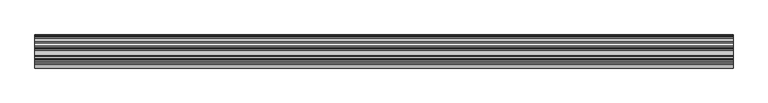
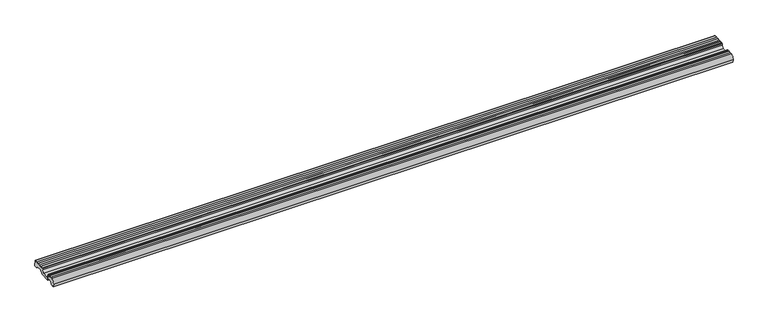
"""IFC4 building model written with IfcOpenShell, lengths in millimetres: proxy geometry, Muestra 2.5m 007 Tecno : Muestra 2.5m 007 Tecno."""

from ifc_helpers import new_model, si_unit, point, frame, frame_2d, origin, place, context, project, spatial, polyline, circle_curve, trimmed, segment, composite_curve, outline, extrude, source, transform, mapped, element, save


def generic_models_bae6f31c(model_context):
    return source(origin(), model_context, "Body", "SweptSolid", [
        extrude(outline(composite_curve([segment(polyline([(-4334.6762857, -31.127556), (-4337.9820965, -6.8253163)]), True, "CONTINUOUS"), segment(trimmed(circle_curve(frame_2d((-4264.898601, 25.9212806)), 80.084561), [point((-4337.9820965, -6.8253163))], [point((-4330.9181229, -19.4103822))], True, "CARTESIAN"), True, "CONTINUOUS"), segment(trimmed(circle_curve(frame_2d((-4328.2766251, -17.9882396)), 3.0), [point((-4330.9181229, -19.4103822))], [point((-4328.033244, -20.9783509))], True, "CARTESIAN"), True, "CONTINUOUS"), segment(polyline([(-4328.033244, -20.9783509), (-4309.9907954, -19.5097795)]), True, "CONTINUOUS"), segment(trimmed(circle_curve(frame_2d((-4314.8003284, -8.2178769)), 12.2734948), [point((-4309.9907954, -19.5097795))], [point((-4302.5559875, -9.063328))], True, "CARTESIAN"), True, "CONTINUOUS"), segment(polyline([(-4302.5559875, -9.063328), (-4302.2003548, -3.9128379), (-4298.476235, -3.6097119)]), True, "CONTINUOUS"), segment(trimmed(circle_curve(frame_2d((-4295.0364486, -0.577194)), 4.5856619), [point((-4298.476235, -3.6097119))], [point((-4290.831144, -2.4057749))], True, "CARTESIAN"), True, "CONTINUOUS"), segment(trimmed(circle_curve(frame_2d((-4286.9802426, 0.0839748)), 4.5856619), [point((-4290.831144, -2.4057749))], [point((-4282.7749379, -1.744606))], True, "CARTESIAN"), True, "CONTINUOUS"), segment(trimmed(circle_curve(frame_2d((-4278.9240366, 0.7451437)), 4.5856619), [point((-4282.7749379, -1.744606))], [point((-4274.7291225, -1.1071497))], True, "CARTESIAN"), True, "CONTINUOUS"), segment(trimmed(circle_curve(frame_2d((-4270.865021, 1.8504161)), 4.8660534), [point((-4274.7291225, -1.1071497))], [point((-4266.5841226, -0.463106))], True, "CARTESIAN"), True, "CONTINUOUS"), segment(trimmed(circle_curve(frame_2d((-4262.750903, 2.4932705)), 4.8408403), [point((-4266.5841226, -0.463106))], [point((-4258.792246, -0.2929041))], True, "CARTESIAN"), True, "CONTINUOUS"), segment(polyline([(-4258.792246, -0.2929041), (-4256.5091729, -0.1069928), (-4256.3244566, -2.3763916), (-4254.3774214, -2.2179124), (-4252.568293, -24.4443475), (-4263.5160254, -25.3354418)]), True, "CONTINUOUS"), segment(trimmed(circle_curve(frame_2d((-4280.69581, -39.9225274)), 22.5372595), [point((-4263.5160254, -25.3354418))], [point((-4300.0084666, -28.3057568))], True, "CARTESIAN"), True, "CONTINUOUS"), segment(polyline([(-4300.0084666, -28.3057568), (-4334.6762857, -31.127556)]), True, "CONTINUOUS")], self_intersect=False)), frame((153572.9704439, 0.0, 0.0), z_axis=(1.0, 0.0, 0.0), x_axis=(0.0, 1.0, 0.0)), (0.0, 0.0, 1.0), 2500.0),
        extrude(outline(composite_curve([segment(polyline([(-4358.3227435, -8.424199), (-4354.1611545, -8.1203809)]), True, "CONTINUOUS"), segment(trimmed(circle_curve(frame_2d((-4350.7967633, -4.5349649)), 4.9167404), [point((-4354.1611545, -8.1203809))], [point((-4346.3729002, -6.6806048))], True, "CARTESIAN"), True, "CONTINUOUS"), segment(trimmed(circle_curve(frame_2d((-4343.7004339, -6.157359)), 2.7232081), [point((-4346.3729002, -6.6806048))], [point((-4341.1630738, -7.1461291))], True, "CARTESIAN"), True, "CONTINUOUS"), segment(polyline([(-4341.1630738, -7.1461291), (-4337.2213967, -6.8253163), (-4333.915586, -31.127556)]), True, "CONTINUOUS"), segment(trimmed(circle_curve(frame_2d((-4345.1430512, -34.2232572)), 11.6464304), [point((-4333.915586, -31.127556))], [point((-4356.7233617, -32.9840029))], True, "CARTESIAN"), True, "CONTINUOUS"), segment(polyline([(-4356.7233617, -32.9840029), (-4370.4080272, -34.097871), (-4371.1687269, -24.752131)]), True, "CONTINUOUS"), segment(trimmed(circle_curve(frame_2d((-4355.9440138, -23.5129101)), 15.2750633), [point((-4371.1687269, -24.752131))], [point((-4358.3227435, -8.424199))], False, "CARTESIAN"), True, "CONTINUOUS")], self_intersect=False)), frame((153572.9704439, 0.0, 0.0), z_axis=(1.0, 0.0, 0.0), x_axis=(0.0, 1.0, 0.0)), (0.0, 0.0, 1.0), 2500.0),
    ])


if __name__ == "__main__":
    model = new_model("IFC4")
    model_context = context("Model", 3, world=origin())
    ifc_project = project(units=[si_unit("LENGTHUNIT", "METRE", prefix="MILLI")], contexts=[model_context])
    site = spatial("IfcSite", under=ifc_project)
    building = spatial("IfcBuilding", under=site)
    placement = place(None, origin())
    generic_models_shape = generic_models_bae6f31c(model_context)
    element("IfcBuildingElementProxy", 1, Name="Muestra 2.5m 007 Tecno : Muestra 2.5m 007 Tecno", ObjectType="Muestra 2.5m 007 Tecno : Muestra 2.5m 007 Tecno", at=placement, inside=building, context=model_context, shape_type="MappedRepresentation", body=[
        mapped(generic_models_shape, transform((0.0, 0.0, 0.0), x_axis=(1.0, 0.0, 0.0), y_axis=(0.0, 1.0, 0.0), z_axis=(0.0, 0.0, 1.0))),
    ])
    save(model, "model.ifc")
